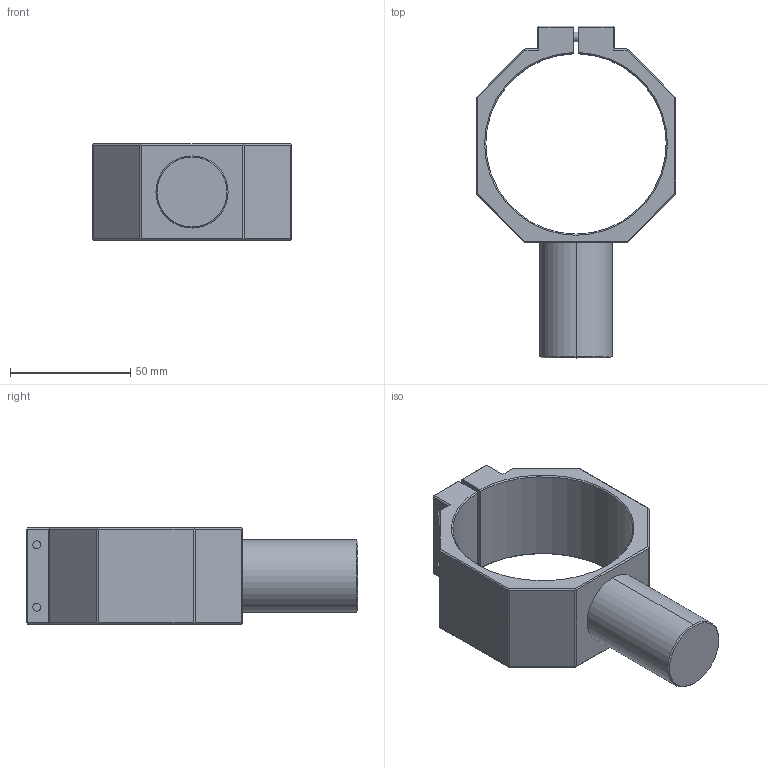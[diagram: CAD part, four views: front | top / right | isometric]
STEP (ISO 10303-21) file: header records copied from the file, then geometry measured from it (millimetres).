
FILE_DESCRIPTION (( 'STEP AP214' ), '1' );
FILE_NAME ('SCE-NR50T.STEP', '2023-01-16T01:06:55', ( 'Windows User' ), ( 'P R C' ), 'SwSTEP 2.0', 'SolidWorks 2019', '' );
FILE_SCHEMA (( 'AUTOMOTIVE_DESIGN' ));
Length unit declared in the file: millimetre
Products named in the file (4): SCE-NR50T; PTS-M4; PTC-M4L18; SCE-NR50
Assembly tree (5 placements, depth 2):
  SCE-NR50T
    SCE-NR50
    PTC-M4L18  x2
    PTS-M4  x2
Bounding box: 83 x 138 x 40 mm (x, y, z)
Volume: 102841.9 mm3; surface area: 31700.7 mm2
Topology: 5 solids, 5 shells, 461 faces, 1304 edges, 856 vertices
Faces by surface type: plane 400, cylinder 35, cone 26
Entity records: 9064 total; most frequent: DIRECTION 1570, CARTESIAN_POINT 1569, ORIENTED_EDGE 1540, EDGE_CURVE 770, LINE 532, VECTOR 532, AXIS2_PLACEMENT_3D 519, VERTEX_POINT 502
